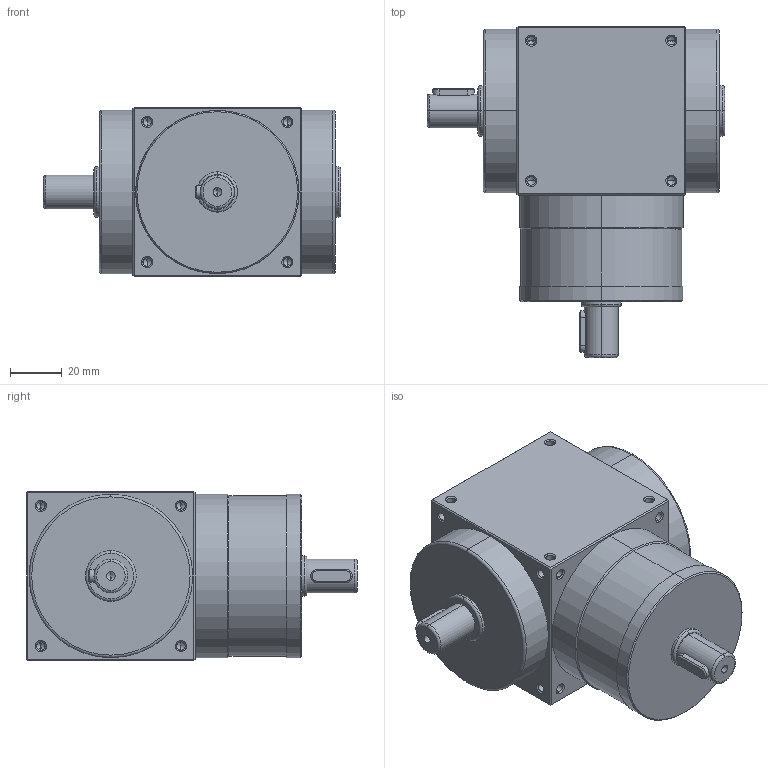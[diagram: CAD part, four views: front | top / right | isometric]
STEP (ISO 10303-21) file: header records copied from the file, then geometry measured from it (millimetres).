
FILE_DESCRIPTION (( 'STEP AP214' ), '1' );
FILE_NAME ('AT065-L1-001.STEP', '2019-11-06T02:59:37', ( 'User' ), ( 'Far123' ), 'SwSTEP 2.0', 'SolidWorks 2015', '' );
FILE_SCHEMA (( 'AUTOMOTIVE_DESIGN' ));
Length unit declared in the file: millimetre
Products named in the file (1): AT065-L1-001
Bounding box: 114.5 x 127.5 x 65 mm (x, y, z)
Volume: 486056.2 mm3; surface area: 42293.7 mm2
Topology: 1 solids, 2 shells, 295 faces, 752 edges, 414 vertices
Faces by surface type: cylinder 126, cone 108, plane 47, torus 14
Entity records: 9568 total; most frequent: CARTESIAN_POINT 2014, ORIENTED_EDGE 1400, DIRECTION 1362, EDGE_CURVE 700, AXIS2_PLACEMENT_3D 530, VERTEX_POINT 414, EDGE_LOOP 332, VECTOR 302
